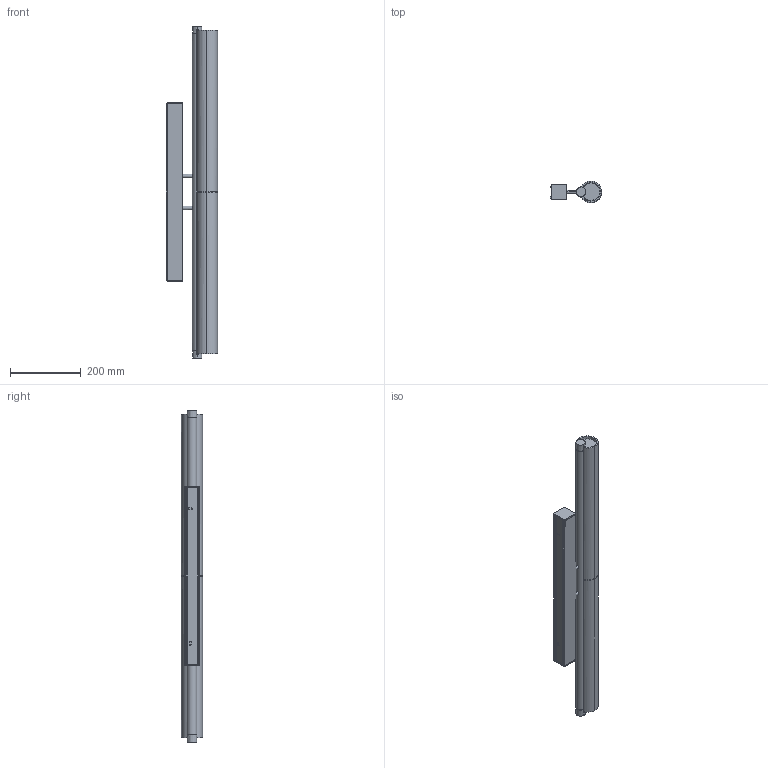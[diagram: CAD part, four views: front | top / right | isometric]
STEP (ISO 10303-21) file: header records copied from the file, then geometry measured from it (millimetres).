
FILE_DESCRIPTION (( 'STEP AP214' ), '1' );
FILE_NAME ('3D_NORMA_95.STEP', '2018-03-14T13:50:54', ( 'Utente' ), ( '' ), 'SwSTEP 2.0', 'SolidWorks 2016', '' );
FILE_SCHEMA (( 'AUTOMOTIVE_DESIGN' ));
Length unit declared in the file: millimetre
Products named in the file (3): 3D_NORMA_95; Group2^3D_NORMA_95; Group1^3D_NORMA_95
Assembly tree (2 placements, depth 2):
  3D_NORMA_95
    Group1^3D_NORMA_95
    Group2^3D_NORMA_95
Bounding box: 144.22 x 60.5 x 937 mm (x, y, z)
Volume: 1061493.6 mm3; surface area: 565648.7 mm2
Topology: 2 solids, 2 shells, 431 faces, 1097 edges, 658 vertices
Faces by surface type: plane 144, cylinder 140, bspline 65, torus 33, cone 28, sphere 21
Entity records: 15030 total; most frequent: CARTESIAN_POINT 4713, ORIENTED_EDGE 2164, DIRECTION 1923, EDGE_CURVE 1082, AXIS2_PLACEMENT_3D 724, VERTEX_POINT 654, VECTOR 475, LINE 475
